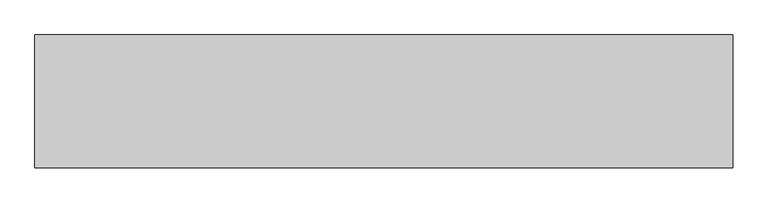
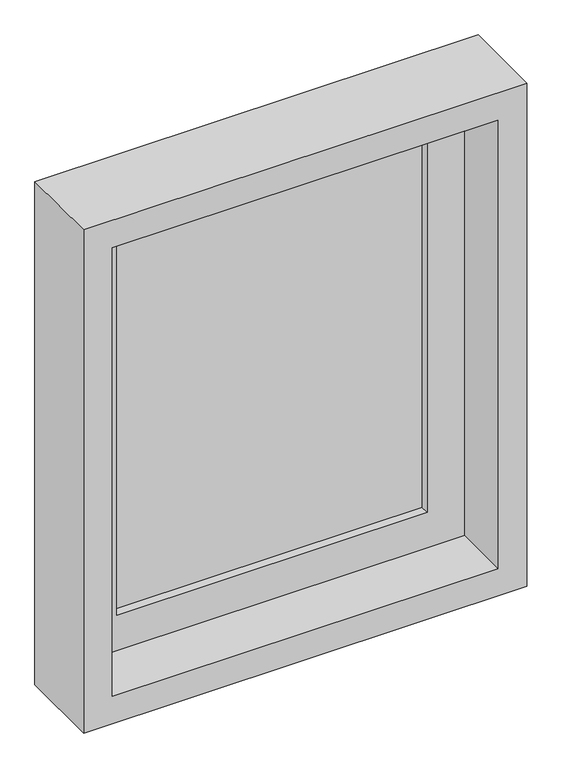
"""IFC4 building model written with IfcOpenShell, lengths in millimetres: proxy geometry, Renson_Fixvent_Window_SimpleFrame_Gen - XXL : Renson_Fixvent_Window_SimpleFrame_Gen."""

from ifc_helpers import new_model, si_unit, frame, origin, place, context, project, spatial, polyline, outline, extrude, faceted_brep, source, transform, mapped, element, save


def generic_models_d7281dfd(model_context):
    return source(origin(), model_context, "Body", "SolidModel", [
        extrude(outline(polyline([(2055.0, 500.0), (2055.0, -500.0), (855.0, -500.0), (855.0, 500.0), (2055.0, 500.0)]), holes=[polyline([(920.0, 435.0), (920.0, -435.0), (1990.0, -435.0), (1990.0, 435.0), (920.0, 435.0)])]), frame((0.0, 0.0, 0.0), z_axis=(0.0, 1.0, 0.0), x_axis=(0.0, 0.0, 1.0)), (0.0, 0.0, 1.0), 190.0),
        extrude(outline(polyline([(1925.0, -370.0), (985.0, -370.0), (985.0, 370.0), (1925.0, 370.0), (1925.0, -370.0)]), holes=[polyline([(1905.0, 350.0), (1005.0, 350.0), (1005.0, -350.0), (1905.0, -350.0), (1905.0, 350.0)])]), frame((0.0, 170.0, 0.0), z_axis=(0.0, 1.0, 0.0), x_axis=(0.0, 0.0, 1.0)), (0.0, 0.0, 1.0), 20.0),
        extrude(outline(polyline([(370.0, 150.0), (-370.0, 150.0), (-370.0, 170.0), (370.0, 170.0), (370.0, 150.0)])), frame((0.0, 0.0, 985.0), z_axis=(0.0, 0.0, 1.0), x_axis=(1.0, 0.0, 0.0)), (0.0, 0.0, 1.0), 940.0),
        faceted_brep([(-370.0, 150.0, 1925.0), (-370.0, 190.0, 1925.0), (370.0, 190.0, 1925.0), (370.0, 150.0, 1925.0), (-350.0, 130.0, 1905.0), (-350.0, 150.0, 1905.0), (350.0, 150.0, 1905.0), (350.0, 130.0, 1905.0), (-435.0, 190.0, 1990.0), (-435.0, 130.0, 1990.0), (435.0, 130.0, 1990.0), (435.0, 190.0, 1990.0), (370.0, 190.0, 985.0), (370.0, 150.0, 985.0), (350.0, 150.0, 1005.0), (350.0, 130.0, 1005.0), (435.0, 130.0, 920.0), (435.0, 190.0, 920.0), (-370.0, 190.0, 985.0), (-370.0, 150.0, 985.0), (-350.0, 150.0, 1005.0), (-350.0, 130.0, 1005.0), (-435.0, 130.0, 920.0), (-435.0, 190.0, 920.0)], [[[0, 1, 2, 3]], [[4, 5, 6, 7]], [[8, 9, 10, 11]], [[3, 2, 12, 13]], [[7, 6, 14, 15]], [[11, 10, 16, 17]], [[13, 12, 18, 19]], [[15, 14, 20, 21]], [[17, 16, 22, 23]], [[11, 17, 23, 8], [1, 18, 12, 2]], [[19, 18, 1, 0]], [[3, 13, 19, 0], [5, 20, 14, 6]], [[21, 20, 5, 4]], [[9, 22, 16, 10], [7, 15, 21, 4]], [[23, 22, 9, 8]]]),
    ])


if __name__ == "__main__":
    model = new_model("IFC4")
    model_context = context("Model", 3, world=origin())
    ifc_project = project(units=[si_unit("LENGTHUNIT", "METRE", prefix="MILLI")], contexts=[model_context])
    site = spatial("IfcSite", under=ifc_project)
    building = spatial("IfcBuilding", under=site)
    placement = place(None, origin())
    generic_models_shape = generic_models_d7281dfd(model_context)
    element("IfcBuildingElementProxy", 1, Name="Renson_Fixvent_Window_SimpleFrame_Gen - XXL : Renson_Fixvent_Window_SimpleFrame_Gen", ObjectType="Renson_Fixvent_Window_SimpleFrame_Gen - XXL : Renson_Fixvent_Window_SimpleFrame_Gen", at=placement, inside=building, context=model_context, shape_type="MappedRepresentation", body=[
        mapped(generic_models_shape, transform((0.0, 0.0, 0.0), x_axis=(1.0, 0.0, 0.0), y_axis=(0.0, 1.0, 0.0), z_axis=(0.0, 0.0, 1.0))),
    ])
    save(model, "model.ifc")
